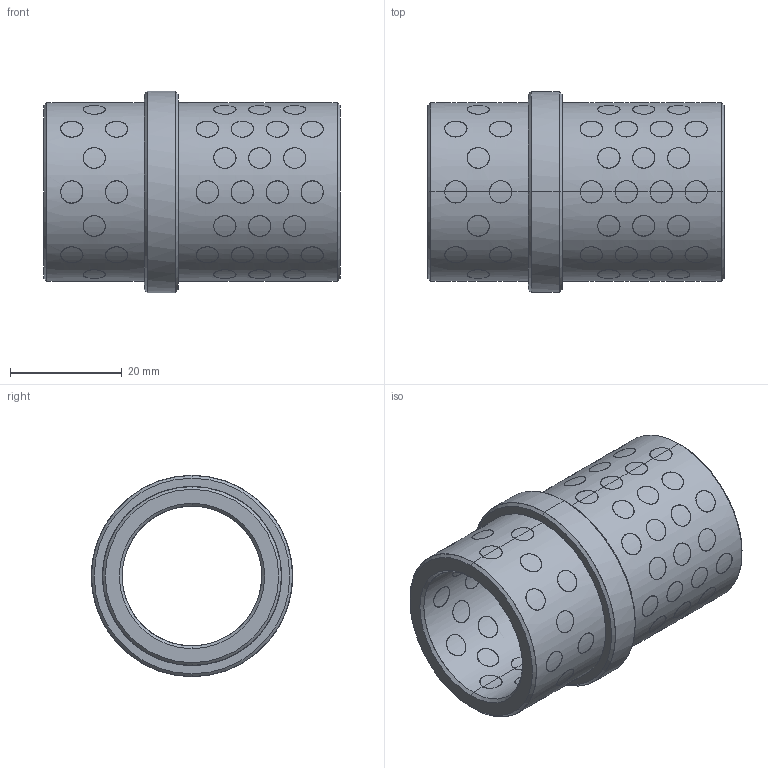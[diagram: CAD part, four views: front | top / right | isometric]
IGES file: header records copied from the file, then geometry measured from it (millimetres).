
Start section: START RECORD GO HERE.
Global section: file name: G4022535.igs; native system: DASSAULT SYSTEMES CATIA V5 R20 - www.3ds.com; preprocessor: CATIA Version 5 Release 20 ; author: r.borello; organization: CFTORINO; date: 20190624.143844; units: millimetre
Bounding box: 53 x 36 x 36 mm (x, y, z)
Surface area: 17426.3 mm2 (no closed solid volume)
Topology: 0 solids, 0 shells, 528 faces, 2304 edges, 2304 vertices
Faces by surface type: revolution 524, plane 4
